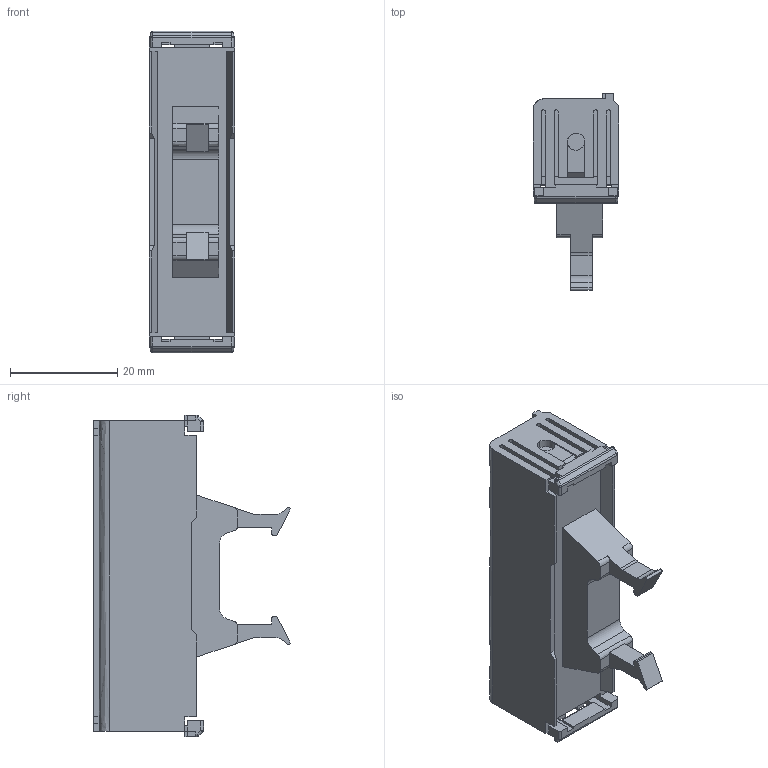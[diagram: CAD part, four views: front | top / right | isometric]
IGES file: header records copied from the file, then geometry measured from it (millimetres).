
Start section: ------------------------------------------------------------------------
Global section: file name: D:\ICADMX\tmp\trans3d_spg\CVICAD02.16560.FZX-F10x_8748.igs; native system: spGate; preprocessor: ver12.6.6; author: Unknown; organization: Unknown; date: 200901.142520; units: millimetre
Bounding box: 16 x 36.7 x 60 mm (x, y, z)
Volume: 16710.2 mm3; surface area: 6900.2 mm2
Topology: 1 solids, 1 shells, 220 faces, 665 edges, 426 vertices
Faces by surface type: bspline 220
